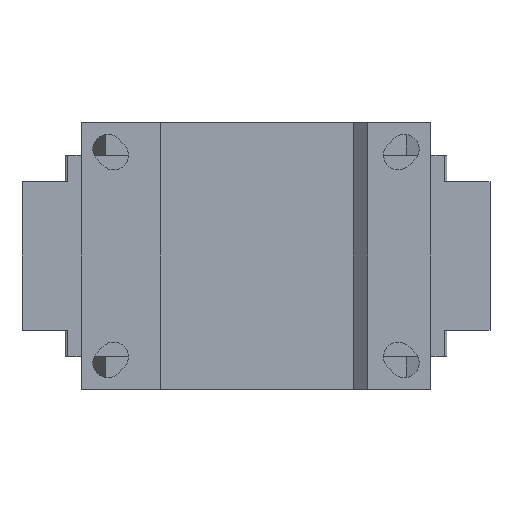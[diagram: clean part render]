
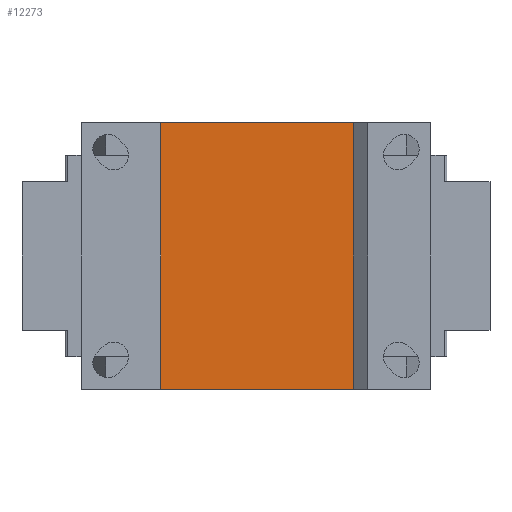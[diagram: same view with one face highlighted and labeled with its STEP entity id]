
A CAD part, front view. The second image highlights one B-rep face of the part: STEP entity #12273.
In plain terms, the highlighted planar face has unit normal (0, -1, 0).
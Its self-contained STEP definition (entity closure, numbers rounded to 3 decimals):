
#25 = EDGE_CURVE ( 'NONE', #17362, #17363, #2069, .T. ) ;
#516 = EDGE_CURVE ( 'NONE', #17362, #1851, #7307, .T. ) ;
#519 = EDGE_CURVE ( 'NONE', #17363, #17427, #7303, .T. ) ;
#1193 = EDGE_CURVE ( 'NONE', #1851, #17427, #13353, .T. ) ;
#1851 = VERTEX_POINT ( 'NONE', #11045 ) ;
#2069 = LINE ( 'NONE', #13906, #2083 ) ;
#2083 = VECTOR ( 'NONE', #14061, 1000. ) ;
#3020 = PLANE ( 'NONE',  #11770 ) ;
#3406 = DIRECTION ( 'NONE',  ( 0., 0., 1. ) ) ;
#4401 = CARTESIAN_POINT ( 'NONE',  ( 17.65, 4., 22.5 ) ) ;
#4539 = DIRECTION ( 'NONE',  ( 0., 1., 0. ) ) ;
#5407 = CARTESIAN_POINT ( 'NONE',  ( -19.05, 4., 22.5 ) ) ;
#5409 = CARTESIAN_POINT ( 'NONE',  ( 17.65, 4., 22.5 ) ) ;
#5411 = DIRECTION ( 'NONE',  ( 0., 0., -1. ) ) ;
#5420 = DIRECTION ( 'NONE',  ( 0., 0., -1. ) ) ;
#7297 = VECTOR ( 'NONE', #5420, 1000. ) ;
#7303 = LINE ( 'NONE', #5409, #7297 ) ;
#7304 = VECTOR ( 'NONE', #5411, 1000. ) ;
#7307 = LINE ( 'NONE', #5407, #7304 ) ;
#8465 = FACE_OUTER_BOUND ( 'NONE', #17735, .T. ) ;
#9105 = CARTESIAN_POINT ( 'NONE',  ( -19.05, 4., 22.5 ) ) ;
#9107 = CARTESIAN_POINT ( 'NONE',  ( 17.65, 4., 22.5 ) ) ;
#9121 = CARTESIAN_POINT ( 'NONE',  ( 17.65, 4., -22.5 ) ) ;
#10002 = DIRECTION ( 'NONE',  ( 1., 0., 0. ) ) ;
#10003 = CARTESIAN_POINT ( 'NONE',  ( 17.65, 4., -22.5 ) ) ;
#11045 = CARTESIAN_POINT ( 'NONE',  ( -19.05, 4., -22.5 ) ) ;
#11770 = AXIS2_PLACEMENT_3D ( 'NONE', #4401, #4539, #3406 ) ;
#12273 = ADVANCED_FACE ( 'NONE', ( #8465 ), #3020, .F. ) ;
#13353 = LINE ( 'NONE', #10003, #13355 ) ;
#13355 = VECTOR ( 'NONE', #10002, 1000. ) ;
#13906 = CARTESIAN_POINT ( 'NONE',  ( 17.65, 4., 22.5 ) ) ;
#14061 = DIRECTION ( 'NONE',  ( 1., 0., 0. ) ) ;
#16513 = ORIENTED_EDGE ( 'NONE', *, *, #25, .F. ) ;
#16627 = ORIENTED_EDGE ( 'NONE', *, *, #519, .F. ) ;
#16644 = ORIENTED_EDGE ( 'NONE', *, *, #516, .T. ) ;
#16686 = ORIENTED_EDGE ( 'NONE', *, *, #1193, .T. ) ;
#17362 = VERTEX_POINT ( 'NONE', #9105 ) ;
#17363 = VERTEX_POINT ( 'NONE', #9107 ) ;
#17427 = VERTEX_POINT ( 'NONE', #9121 ) ;
#17735 = EDGE_LOOP ( 'NONE', ( #16686, #16627, #16513, #16644 ) ) ;
